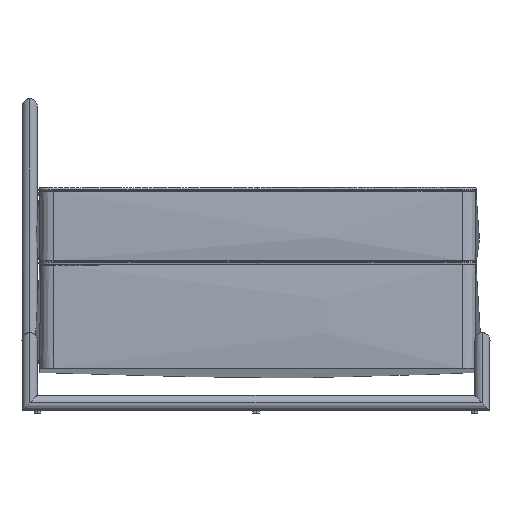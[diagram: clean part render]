
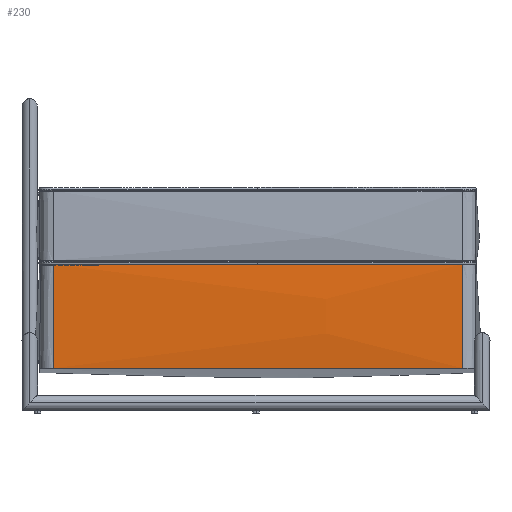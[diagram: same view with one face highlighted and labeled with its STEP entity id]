
A CAD part, left-side view. The second image highlights one B-rep face of the part: STEP entity #230.
In plain terms, the highlighted free-form (B-spline) face has degree [3, 3] with [6, 6] control points.
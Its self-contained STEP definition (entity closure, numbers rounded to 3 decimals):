
#230=ADVANCED_FACE('',(#326),#1498,.T.);
#326=FACE_OUTER_BOUND('',#422,.T.);
#422=EDGE_LOOP('',(#570,#571,#572,#573));
#570=ORIENTED_EDGE('',*,*,#969,.T.);
#571=ORIENTED_EDGE('',*,*,#950,.T.);
#572=ORIENTED_EDGE('',*,*,#980,.T.);
#573=ORIENTED_EDGE('',*,*,#951,.T.);
#950=EDGE_CURVE('',#1366,#1367,#1199,.T.);
#951=EDGE_CURVE('',#1368,#1365,#1200,.T.);
#969=EDGE_CURVE('',#1365,#1366,#1218,.T.);
#980=EDGE_CURVE('',#1367,#1368,#1222,.T.);
#1199=B_SPLINE_CURVE_WITH_KNOTS('',3,(#3311,#3312,#3313,#3314,#3315,#3316),
 .UNSPECIFIED.,.F.,.F.,(4,1,1,4),(0.,253.333,506.667,
760.),.UNSPECIFIED.);
#1200=B_SPLINE_CURVE_WITH_KNOTS('',3,(#3317,#3318,#3319,#3320,#3321,#3322),
 .UNSPECIFIED.,.F.,.F.,(4,1,1,4),(-760.,-506.667,-253.333,
0.),.UNSPECIFIED.);
#1218=B_SPLINE_CURVE_WITH_KNOTS('',3,(#3479,#3480,#3481,#3482),
 .UNSPECIFIED.,.F.,.F.,(4,4),(0.,135.),.UNSPECIFIED.);
#1222=B_SPLINE_CURVE_WITH_KNOTS('',3,(#3530,#3531,#3532,#3533),
 .UNSPECIFIED.,.F.,.F.,(4,4),(-135.,0.),.UNSPECIFIED.);
#1365=VERTEX_POINT('',#3294);
#1366=VERTEX_POINT('',#3295);
#1367=VERTEX_POINT('',#3296);
#1368=VERTEX_POINT('',#3297);
#1498=B_SPLINE_SURFACE_WITH_KNOTS('',3,3,((#2985,#2986,#2987,#2988,#2989,
#2990),(#2991,#2992,#2993,#2994,#2995,#2996),(#2997,#2998,#2999,#3000,#3001,
#3002),(#3003,#3004,#3005,#3006,#3007,#3008),(#3009,#3010,#3011,#3012,#3013,
#3014),(#3015,#3016,#3017,#3018,#3019,#3020)),.UNSPECIFIED.,.F.,.F.,.F.,
(4,1,1,4),(4,1,1,4),(0.,66.663,133.326,199.989),
(0.,253.333,506.667,760.),.UNSPECIFIED.);
#2985=CARTESIAN_POINT('',(1.309,839.484,286.662));
#2986=CARTESIAN_POINT('',(1.309,752.078,286.68));
#2987=CARTESIAN_POINT('',(1.309,577.267,286.716));
#2988=CARTESIAN_POINT('',(1.308,315.05,286.771));
#2989=CARTESIAN_POINT('',(1.308,140.238,286.807));
#2990=CARTESIAN_POINT('',(1.308,52.833,286.825));
#2991=CARTESIAN_POINT('',(1.408,839.489,264.435));
#2992=CARTESIAN_POINT('',(0.357,752.083,264.457));
#2993=CARTESIAN_POINT('',(0.356,577.272,264.493));
#2994=CARTESIAN_POINT('',(0.356,315.055,264.548));
#2995=CARTESIAN_POINT('',(0.356,140.243,264.584));
#2996=CARTESIAN_POINT('',(1.407,52.837,264.598));
#2997=CARTESIAN_POINT('',(1.605,839.498,219.981));
#2998=CARTESIAN_POINT('',(-4.702,752.093,220.021));
#2999=CARTESIAN_POINT('',(-4.702,577.281,220.058));
#3000=CARTESIAN_POINT('',(-4.703,315.064,220.112));
#3001=CARTESIAN_POINT('',(-4.703,140.253,220.148));
#3002=CARTESIAN_POINT('',(1.604,52.847,220.144));
#3003=CARTESIAN_POINT('',(1.902,839.513,153.3));
#3004=CARTESIAN_POINT('',(-4.406,752.107,153.34));
#3005=CARTESIAN_POINT('',(-4.406,577.296,153.377));
#3006=CARTESIAN_POINT('',(-4.406,315.078,153.431));
#3007=CARTESIAN_POINT('',(-4.407,140.267,153.467));
#3008=CARTESIAN_POINT('',(1.9,52.861,153.463));
#3009=CARTESIAN_POINT('',(2.099,839.522,108.846));
#3010=CARTESIAN_POINT('',(1.048,752.117,108.868));
#3011=CARTESIAN_POINT('',(1.048,577.305,108.904));
#3012=CARTESIAN_POINT('',(1.047,315.088,108.959));
#3013=CARTESIAN_POINT('',(1.047,140.277,108.995));
#3014=CARTESIAN_POINT('',(2.098,52.871,109.01));
#3015=CARTESIAN_POINT('',(2.198,839.527,86.619));
#3016=CARTESIAN_POINT('',(2.198,752.121,86.637));
#3017=CARTESIAN_POINT('',(2.197,577.31,86.674));
#3018=CARTESIAN_POINT('',(2.197,315.093,86.728));
#3019=CARTESIAN_POINT('',(2.197,140.281,86.764));
#3020=CARTESIAN_POINT('',(2.197,52.876,86.783));
#3294=CARTESIAN_POINT('',(1.309,839.484,286.662));
#3295=CARTESIAN_POINT('',(2.198,839.527,86.619));
#3296=CARTESIAN_POINT('',(2.197,52.876,86.783));
#3297=CARTESIAN_POINT('',(1.308,52.833,286.825));
#3311=CARTESIAN_POINT('',(2.198,839.527,86.619));
#3312=CARTESIAN_POINT('',(2.198,752.121,86.637));
#3313=CARTESIAN_POINT('',(2.197,577.31,86.674));
#3314=CARTESIAN_POINT('',(2.197,315.093,86.728));
#3315=CARTESIAN_POINT('',(2.197,140.281,86.764));
#3316=CARTESIAN_POINT('',(2.197,52.876,86.783));
#3317=CARTESIAN_POINT('',(1.308,52.833,286.825));
#3318=CARTESIAN_POINT('',(1.308,140.238,286.807));
#3319=CARTESIAN_POINT('',(1.308,315.05,286.771));
#3320=CARTESIAN_POINT('',(1.309,577.267,286.716));
#3321=CARTESIAN_POINT('',(1.309,752.078,286.68));
#3322=CARTESIAN_POINT('',(1.309,839.484,286.662));
#3479=CARTESIAN_POINT('',(1.309,839.484,286.662));
#3480=CARTESIAN_POINT('',(1.605,839.498,219.981));
#3481=CARTESIAN_POINT('',(1.902,839.513,153.3));
#3482=CARTESIAN_POINT('',(2.198,839.527,86.619));
#3530=CARTESIAN_POINT('',(2.197,52.876,86.783));
#3531=CARTESIAN_POINT('',(1.9,52.861,153.463));
#3532=CARTESIAN_POINT('',(1.604,52.847,220.144));
#3533=CARTESIAN_POINT('',(1.308,52.833,286.825));
